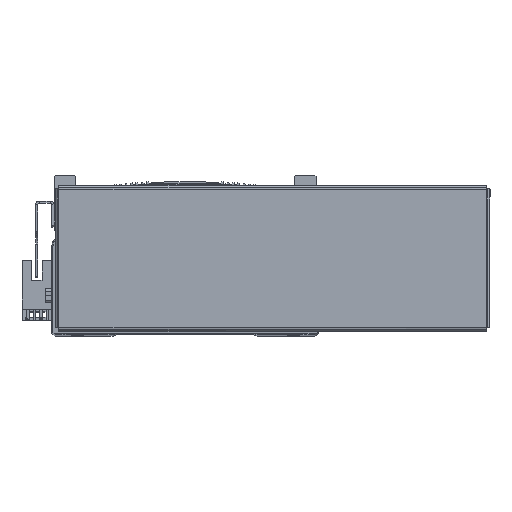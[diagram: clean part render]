
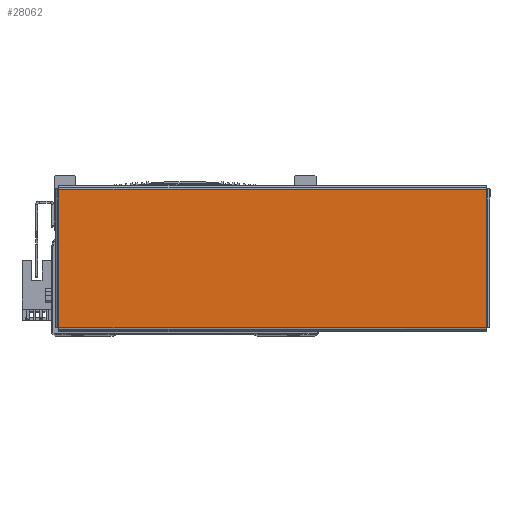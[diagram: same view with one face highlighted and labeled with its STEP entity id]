
A CAD part, top view. The second image highlights one B-rep face of the part: STEP entity #28062.
In plain terms, the highlighted planar face has unit normal (0, 0, 1) as drawn and (0, 0, -1) by its records, which use the part's own axes.
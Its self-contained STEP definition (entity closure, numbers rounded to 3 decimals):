
#2733 = ORIENTED_EDGE ( 'NONE', *, *, #29900, .T. ) ;
#2759 = ORIENTED_EDGE ( 'NONE', *, *, #29896, .T. ) ;
#2768 = ORIENTED_EDGE ( 'NONE', *, *, #29933, .T. ) ;
#2778 = ORIENTED_EDGE ( 'NONE', *, *, #29843, .T. ) ;
#6033 = VECTOR ( 'NONE', #15094, 1000. ) ;
#6048 = LINE ( 'NONE', #15080, #6033 ) ;
#6085 = VECTOR ( 'NONE', #15270, 1000. ) ;
#6099 = LINE ( 'NONE', #15250, #6085 ) ;
#6122 = VECTOR ( 'NONE', #15288, 1000. ) ;
#6127 = LINE ( 'NONE', #15281, #6122 ) ;
#6157 = LINE ( 'NONE', #44518, #6171 ) ;
#6171 = VECTOR ( 'NONE', #44642, 1000. ) ;
#7480 = EDGE_LOOP ( 'NONE', ( #2733, #2768, #2778, #2759 ) ) ;
#15080 = CARTESIAN_POINT ( 'NONE',  ( -97.863, -31.793, -1. ) ) ;
#15094 = DIRECTION ( 'NONE',  ( 0., 1., 0. ) ) ;
#15250 = CARTESIAN_POINT ( 'NONE',  ( 97.863, 31.793, -1. ) ) ;
#15270 = DIRECTION ( 'NONE',  ( 0., -1., 0. ) ) ;
#15281 = CARTESIAN_POINT ( 'NONE',  ( -97.893, 31.763, -1. ) ) ;
#15288 = DIRECTION ( 'NONE',  ( 1., 0., 0. ) ) ;
#19887 = AXIS2_PLACEMENT_3D ( 'NONE', #38151, #38071, #38066 ) ;
#28062 = ADVANCED_FACE ( 'NONE', ( #35327 ), #38096, .F. ) ;
#29843 = EDGE_CURVE ( 'NONE', #69988, #69899, #6048, .T. ) ;
#29896 = EDGE_CURVE ( 'NONE', #69899, #69894, #6127, .T. ) ;
#29900 = EDGE_CURVE ( 'NONE', #69894, #69895, #6099, .T. ) ;
#29933 = EDGE_CURVE ( 'NONE', #69895, #69988, #6157, .T. ) ;
#35327 = FACE_OUTER_BOUND ( 'NONE', #7480, .T. ) ;
#38066 = DIRECTION ( 'NONE',  ( 1., 0., 0. ) ) ;
#38071 = DIRECTION ( 'NONE',  ( 0., 0., 1. ) ) ;
#38096 = PLANE ( 'NONE',  #19887 ) ;
#38151 = CARTESIAN_POINT ( 'NONE',  ( 0., 0., -1. ) ) ;
#44518 = CARTESIAN_POINT ( 'NONE',  ( 97.893, -31.763, -1. ) ) ;
#44642 = DIRECTION ( 'NONE',  ( -1., 0., 0. ) ) ;
#65854 = CARTESIAN_POINT ( 'NONE',  ( 97.863, -31.763, -1. ) ) ;
#65860 = CARTESIAN_POINT ( 'NONE',  ( -97.863, 31.763, -1. ) ) ;
#65865 = CARTESIAN_POINT ( 'NONE',  ( 97.863, 31.763, -1. ) ) ;
#65902 = CARTESIAN_POINT ( 'NONE',  ( -97.863, -31.763, -1. ) ) ;
#69894 = VERTEX_POINT ( 'NONE', #65865 ) ;
#69895 = VERTEX_POINT ( 'NONE', #65854 ) ;
#69899 = VERTEX_POINT ( 'NONE', #65860 ) ;
#69988 = VERTEX_POINT ( 'NONE', #65902 ) ;
